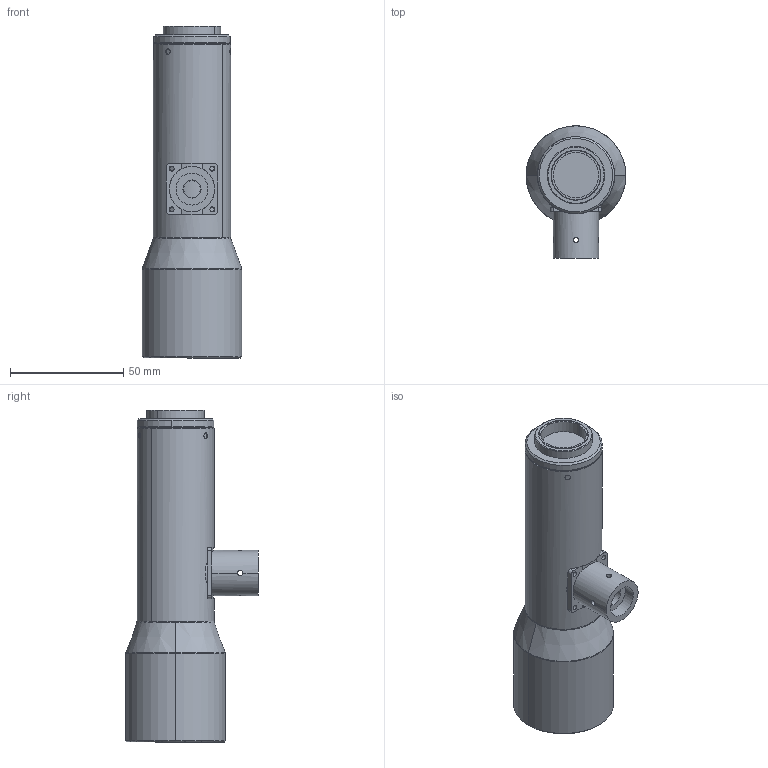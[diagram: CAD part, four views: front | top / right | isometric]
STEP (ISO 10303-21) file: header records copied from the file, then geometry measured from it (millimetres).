
FILE_DESCRIPTION (( 'STEP AP203' ), '1' );
FILE_NAME ('WWK08-110C-111V3.STEP', '2022-09-27T07:01:56', ( '' ), ( '' ), 'SwSTEP 2.0', 'SolidWorks 2017', '' );
FILE_SCHEMA (( 'CONFIG_CONTROL_DESIGN' ));
Length unit declared in the file: millimetre
Products named in the file (1): WWK08-110C-111V3
Bounding box: 44 x 58.5 x 146.39 mm (x, y, z)
Volume: 157890.1 mm3; surface area: 22569.9 mm2
Topology: 1 solids, 1 shells, 137 faces, 359 edges, 230 vertices
Faces by surface type: cylinder 77, plane 40, cone 16, torus 4
Entity records: 5060 total; most frequent: CARTESIAN_POINT 1584, ORIENTED_EDGE 718, DIRECTION 711, EDGE_CURVE 359, AXIS2_PLACEMENT_3D 285, VERTEX_POINT 230, EDGE_LOOP 159, CIRCLE 147
